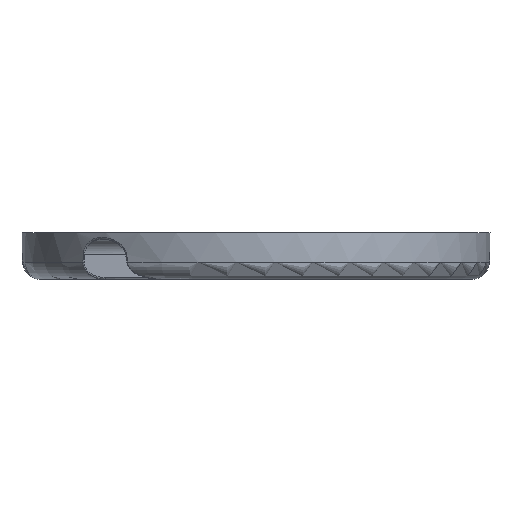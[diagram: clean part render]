
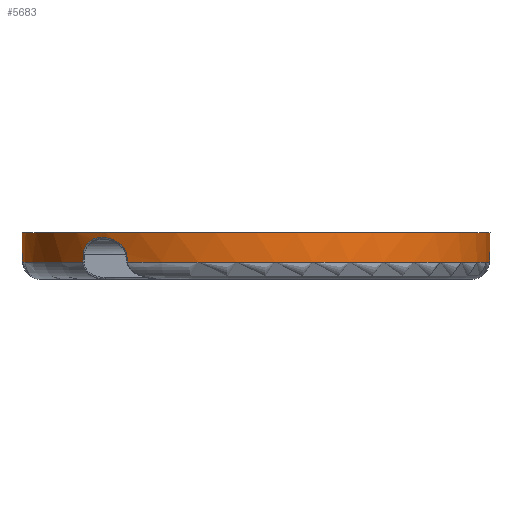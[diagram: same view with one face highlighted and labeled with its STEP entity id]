
A CAD part, front view. The second image highlights one B-rep face of the part: STEP entity #5683.
In plain terms, the highlighted conical face has half-angle 1 degrees and reference radius 17.481 mm.
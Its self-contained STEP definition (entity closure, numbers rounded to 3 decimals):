
#994=CARTESIAN_POINT('',(0.,0.,-2.2));
#995=DIRECTION('',(0.,0.,-1.));
#996=DIRECTION('',(-0.741,-0.671,0.));
#997=AXIS2_PLACEMENT_3D('',#994,#995,#996);
#1068=CARTESIAN_POINT('',(-9.602,-14.584,
-2.2));
#1092=CARTESIAN_POINT('',(0.,0.,-2.2));
#1093=DIRECTION('',(0.,0.,-1.));
#1094=DIRECTION('',(1.,0.,0.));
#1095=AXIS2_PLACEMENT_3D('',#1092,#1093,#1094);
#1102=CARTESIAN_POINT('',(-9.68,-14.545,
-1.639));
#1103=CARTESIAN_POINT('',(-9.671,-14.549,
-1.702));
#1104=CARTESIAN_POINT('',(-9.654,-14.558,
-1.826));
#1105=CARTESIAN_POINT('',(-9.628,-14.571,
-2.013));
#1106=CARTESIAN_POINT('',(-9.611,-14.58,
-2.138));
#1107=CARTESIAN_POINT('',(-9.602,-14.584,
-2.2));
#1109=CARTESIAN_POINT('',(-12.92,-11.761,
-1.639));
#1110=CARTESIAN_POINT('',(-12.919,-11.763,
-1.608));
#1111=CARTESIAN_POINT('',(-12.914,-11.77,
-1.547));
#1112=CARTESIAN_POINT('',(-12.903,-11.784,
-1.461));
#1113=CARTESIAN_POINT('',(-12.886,-11.805,
-1.375));
#1114=CARTESIAN_POINT('',(-12.864,-11.831,
-1.29));
#1115=CARTESIAN_POINT('',(-12.838,-11.862,
-1.209));
#1116=CARTESIAN_POINT('',(-12.807,-11.897,
-1.131));
#1117=CARTESIAN_POINT('',(-12.772,-11.936,
-1.057));
#1118=CARTESIAN_POINT('',(-12.734,-11.979,
-0.987));
#1119=CARTESIAN_POINT('',(-12.691,-12.027,
-0.918));
#1120=CARTESIAN_POINT('',(-12.639,-12.083,
-0.846));
#1121=CARTESIAN_POINT('',(-12.575,-12.151,
-0.771));
#1122=CARTESIAN_POINT('',(-12.497,-12.233,
-0.693));
#1123=CARTESIAN_POINT('',(-12.403,-12.331,
-0.616));
#1124=CARTESIAN_POINT('',(-12.291,-12.444,
-0.541));
#1125=CARTESIAN_POINT('',(-12.158,-12.576,
-0.473));
#1126=CARTESIAN_POINT('',(-11.999,-12.729,
-0.414));
#1127=CARTESIAN_POINT('',(-11.814,-12.903,
-0.371));
#1128=CARTESIAN_POINT('',(-11.61,-13.087,
-0.35));
#1129=CARTESIAN_POINT('',(-11.41,-13.261,
-0.354));
#1130=CARTESIAN_POINT('',(-11.227,-13.416,
-0.375));
#1131=CARTESIAN_POINT('',(-11.063,-13.551,
-0.408));
#1132=CARTESIAN_POINT('',(-10.915,-13.669,
-0.449));
#1133=CARTESIAN_POINT('',(-10.783,-13.772,
-0.495));
#1134=CARTESIAN_POINT('',(-10.664,-13.864,
-0.544));
#1135=CARTESIAN_POINT('',(-10.559,-13.943,
-0.595));
#1136=CARTESIAN_POINT('',(-10.466,-14.012,
-0.645));
#1137=CARTESIAN_POINT('',(-10.382,-14.073,
-0.695));
#1138=CARTESIAN_POINT('',(-10.303,-14.13,
-0.747));
#1139=CARTESIAN_POINT('',(-10.226,-14.184,
-0.803));
#1140=CARTESIAN_POINT('',(-10.151,-14.237,
-0.863));
#1141=CARTESIAN_POINT('',(-10.082,-14.284,
-0.925));
#1142=CARTESIAN_POINT('',(-10.017,-14.328,
-0.989));
#1143=CARTESIAN_POINT('',(-9.956,-14.369,
-1.057));
#1144=CARTESIAN_POINT('',(-9.898,-14.408,
-1.13));
#1145=CARTESIAN_POINT('',(-9.844,-14.444,
-1.208));
#1146=CARTESIAN_POINT('',(-9.795,-14.475,
-1.291));
#1147=CARTESIAN_POINT('',(-9.756,-14.499,
-1.371));
#1148=CARTESIAN_POINT('',(-9.724,-14.519,
-1.451));
#1149=CARTESIAN_POINT('',(-9.697,-14.535,
-1.54));
#1150=CARTESIAN_POINT('',(-9.685,-14.542,
-1.605));
#1151=CARTESIAN_POINT('',(-9.68,-14.545,
-1.639));
#1153=CARTESIAN_POINT('',(-12.943,-11.722,
-2.2));
#1154=CARTESIAN_POINT('',(-12.94,-11.726,
-2.138));
#1155=CARTESIAN_POINT('',(-12.935,-11.735,
-2.013));
#1156=CARTESIAN_POINT('',(-12.928,-11.748,
-1.826));
#1157=CARTESIAN_POINT('',(-12.922,-11.757,
-1.702));
#1158=CARTESIAN_POINT('',(-12.92,-11.761,
-1.639));
#1160=DIRECTION('',(0.017,0.,-1.));
#1161=VECTOR('',#1160,2.2);
#1162=CARTESIAN_POINT('',(-17.5,0.,0.));
#1163=LINE('',#1162,#1161);
#1164=CARTESIAN_POINT('',(0.,0.,0.));
#1165=DIRECTION('',(0.,0.,-1.));
#1166=DIRECTION('',(1.,0.,0.));
#1167=AXIS2_PLACEMENT_3D('',#1164,#1165,#1166);
#1169=DIRECTION('',(-0.017,0.,-1.));
#1170=VECTOR('',#1169,2.2);
#1171=CARTESIAN_POINT('',(17.5,0.,0.));
#1172=LINE('',#1171,#1170);
#3841=CARTESIAN_POINT('',(17.5,0.,0.));
#3842=CARTESIAN_POINT('',(17.462,0.,-2.2));
#3843=VERTEX_POINT('',#3841);
#3844=VERTEX_POINT('',#3842);
#3845=CARTESIAN_POINT('',(-17.5,0.,0.));
#3846=CARTESIAN_POINT('',(-17.462,0.,-2.2));
#3847=VERTEX_POINT('',#3845);
#3848=VERTEX_POINT('',#3846);
#4171=VERTEX_POINT('',#1068);
#4173=VERTEX_POINT('',#1102);
#4176=VERTEX_POINT('',#1109);
#4178=VERTEX_POINT('',#1153);
#5665=CARTESIAN_POINT('',(0.,0.,-1.1));
#5666=DIRECTION('',(0.,0.,1.));
#5667=DIRECTION('',(-1.,0.,0.));
#5668=AXIS2_PLACEMENT_3D('',#5665,#5666,#5667);
#5669=CONICAL_SURFACE('',#5668,17.481,1.);
#5671=ORIENTED_EDGE('',*,*,#5670,.F.);
#5673=ORIENTED_EDGE('',*,*,#5672,.F.);
#5675=ORIENTED_EDGE('',*,*,#5674,.F.);
#5676=ORIENTED_EDGE('',*,*,#5635,.T.);
#5677=ORIENTED_EDGE('',*,*,#5475,.F.);
#5678=ORIENTED_EDGE('',*,*,#5366,.F.);
#5679=ORIENTED_EDGE('',*,*,#5472,.T.);
#5680=ORIENTED_EDGE('',*,*,#5659,.T.);
#5681=EDGE_LOOP('',(#5671,#5673,#5675,#5676,#5677,#5678,#5679,#5680));
#5682=FACE_OUTER_BOUND('',#5681,.F.);
#998=CIRCLE('',#997,17.462);
#1096=CIRCLE('',#1095,17.462);
#1108=B_SPLINE_CURVE_WITH_KNOTS('',3,(#1102,#1103,#1104,#1105,#1106,#1107),
.UNSPECIFIED.,.F.,.F.,(4,1,1,4),(0.,0.333,0.667,1.),
.UNSPECIFIED.);
#1152=B_SPLINE_CURVE_WITH_KNOTS('',3,(#1109,#1110,#1111,#1112,#1113,#1114,#1115,
#1116,#1117,#1118,#1119,#1120,#1121,#1122,#1123,#1124,#1125,#1126,#1127,#1128,
#1129,#1130,#1131,#1132,#1133,#1134,#1135,#1136,#1137,#1138,#1139,#1140,#1141,
#1142,#1143,#1144,#1145,#1146,#1147,#1148,#1149,#1150,#1151),.UNSPECIFIED.,.F.,
.F.,(4,1,1,1,1,1,1,1,1,1,1,1,1,1,1,1,1,1,1,1,1,1,1,1,1,1,1,1,1,1,1,1,1,1,1,1,1,
1,1,1,4),(0.,0.025,0.05,0.075,0.1,0.125,0.15,0.175,0.2,0.225,
0.25,0.275,0.3,0.325,0.35,0.375,0.4,0.425,0.45,0.475,0.5,
0.525,0.55,0.575,0.6,0.625,0.65,0.675,0.7,0.725,0.75,
0.775,0.8,0.825,0.85,0.875,0.9,0.925,0.95,0.975,1.),
.UNSPECIFIED.);
#1159=B_SPLINE_CURVE_WITH_KNOTS('',3,(#1153,#1154,#1155,#1156,#1157,#1158),
.UNSPECIFIED.,.F.,.F.,(4,1,1,4),(0.,0.333,0.667,1.),
.UNSPECIFIED.);
#1168=CIRCLE('',#1167,17.5);
#5366=EDGE_CURVE('',#3843,#3847,#1168,.T.);
#5472=EDGE_CURVE('',#3843,#3844,#1172,.T.);
#5475=EDGE_CURVE('',#3847,#3848,#1163,.T.);
#5635=EDGE_CURVE('',#4178,#3848,#998,.T.);
#5659=EDGE_CURVE('',#3844,#4171,#1096,.T.);
#5670=EDGE_CURVE('',#4173,#4171,#1108,.T.);
#5672=EDGE_CURVE('',#4176,#4173,#1152,.T.);
#5674=EDGE_CURVE('',#4178,#4176,#1159,.T.);
#5683=ADVANCED_FACE('',(#5682),#5669,.T.);
